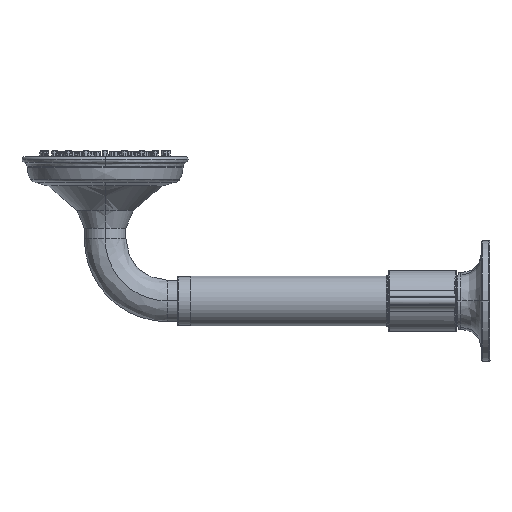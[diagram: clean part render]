
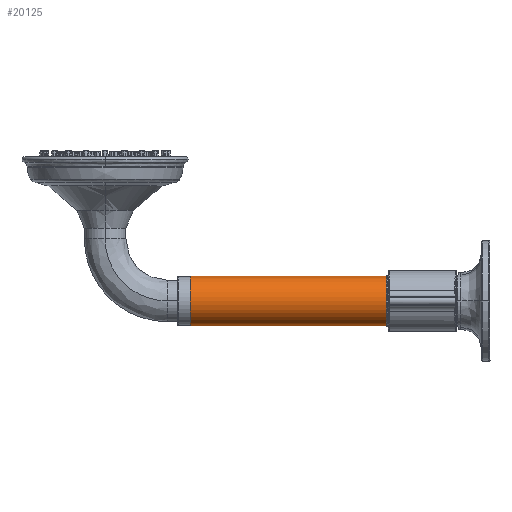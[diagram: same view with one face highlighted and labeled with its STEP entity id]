
A CAD part, left-side view. The second image highlights one B-rep face of the part: STEP entity #20125.
In plain terms, the highlighted cylindrical face has radius 12 mm (diameter 24 mm), a partial arc.
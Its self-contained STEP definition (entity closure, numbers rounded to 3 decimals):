
#20039=CARTESIAN_POINT('',(438.,144.2,0.));
#20040=VERTEX_POINT('',#20039);
#20041=CARTESIAN_POINT('',(450.,144.2,12.));
#20042=VERTEX_POINT('',#20041);
#20043=CARTESIAN_POINT('',(450.,144.2,0.));
#20044=DIRECTION('',(0.,1.,0.));
#20045=DIRECTION('',(-1.,0.,0.));
#20046=AXIS2_PLACEMENT_3D('',#20043,#20044,#20045);
#20047=CIRCLE('',#20046,12.0);
#20048=EDGE_CURVE('',#20040,#20042,#20047,.T.);
#20059=CARTESIAN_POINT('',(450.,144.2,-12.));
#20060=VERTEX_POINT('',#20059);
#20068=CARTESIAN_POINT('',(450.,144.2,0.));
#20069=DIRECTION('',(0.,1.,0.));
#20070=DIRECTION('',(0.,0.,-1.));
#20071=AXIS2_PLACEMENT_3D('',#20068,#20069,#20070);
#20072=CIRCLE('',#20071,12.0);
#20073=EDGE_CURVE('',#20060,#20040,#20072,.T.);
#20084=CARTESIAN_POINT('',(450.,21.7,0.));
#20085=DIRECTION('',(0.,1.,0.));
#20086=DIRECTION('',(1.,0.,0.));
#20087=AXIS2_PLACEMENT_3D('',#20084,#20085,#20086);
#20088=CYLINDRICAL_SURFACE('',#20087,12.0);
#20089=ORIENTED_EDGE('',*,*,#20048,.F.);
#20090=ORIENTED_EDGE('',*,*,#20073,.F.);
#20091=CARTESIAN_POINT('',(450.,21.7,-12.));
#20092=VERTEX_POINT('',#20091);
#20093=CARTESIAN_POINT('',(450.,21.7,-12.));
#20094=DIRECTION('',(0.,1.,0.0));
#20095=VECTOR('',#20094,122.5);
#20096=LINE('',#20093,#20095);
#20097=EDGE_CURVE('',#20092,#20060,#20096,.T.);
#20098=ORIENTED_EDGE('',*,*,#20097,.F.);
#20099=CARTESIAN_POINT('',(438.,21.7,0.));
#20100=VERTEX_POINT('',#20099);
#20101=CARTESIAN_POINT('',(450.,21.7,0.));
#20102=DIRECTION('',(0.,-1.,0.0));
#20103=DIRECTION('',(-1.,0.,0.));
#20104=AXIS2_PLACEMENT_3D('',#20101,#20102,#20103);
#20105=CIRCLE('',#20104,12.0);
#20106=EDGE_CURVE('',#20100,#20092,#20105,.T.);
#20107=ORIENTED_EDGE('',*,*,#20106,.F.);
#20108=CARTESIAN_POINT('',(450.,21.7,12.));
#20109=VERTEX_POINT('',#20108);
#20110=CARTESIAN_POINT('',(450.,21.7,0.));
#20111=DIRECTION('',(0.,-1.,0.0));
#20112=DIRECTION('',(0.,0.,1.));
#20113=AXIS2_PLACEMENT_3D('',#20110,#20111,#20112);
#20114=CIRCLE('',#20113,12.0);
#20115=EDGE_CURVE('',#20109,#20100,#20114,.T.);
#20116=ORIENTED_EDGE('',*,*,#20115,.F.);
#20117=CARTESIAN_POINT('',(450.,21.7,12.));
#20118=DIRECTION('',(0.,1.,0.0));
#20119=VECTOR('',#20118,122.5);
#20120=LINE('',#20117,#20119);
#20121=EDGE_CURVE('',#20109,#20042,#20120,.T.);
#20122=ORIENTED_EDGE('',*,*,#20121,.T.);
#20123=EDGE_LOOP('',(#20089,#20090,#20098,#20107,#20116,#20122));
#20124=FACE_OUTER_BOUND('',#20123,.T.);
#20125=ADVANCED_FACE('',(#20124),#20088,.T.);
